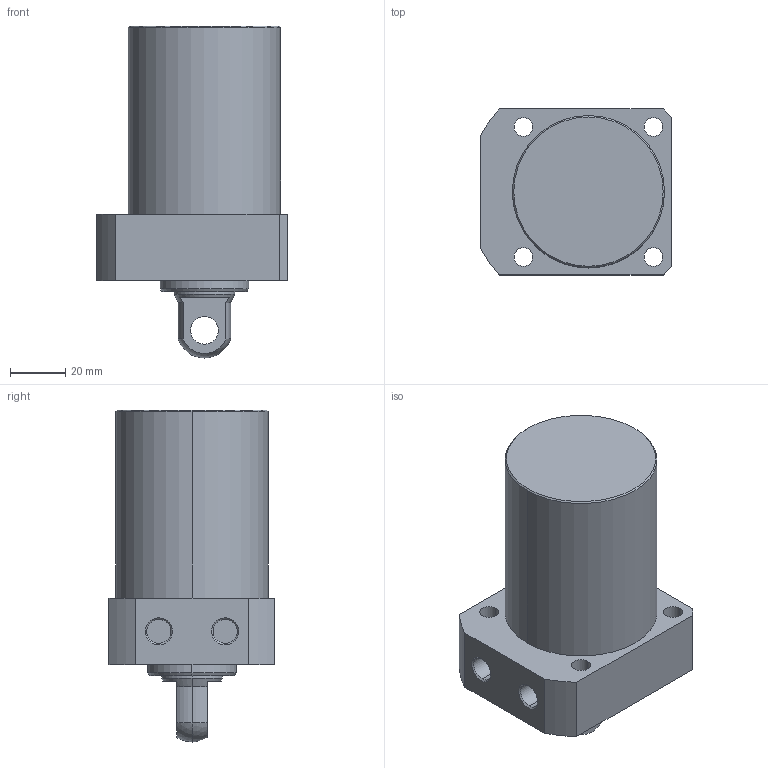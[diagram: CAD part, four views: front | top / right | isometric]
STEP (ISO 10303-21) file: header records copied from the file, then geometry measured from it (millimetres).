
FILE_DESCRIPTION (( 'STEP AP203' ), '1' );
FILE_NAME ('CLLR-055CP-055.STEP', '2019-12-19T08:28:36', ( '' ), ( '' ), 'SwSTEP 2.0', 'SolidWorks 2015', '' );
FILE_SCHEMA (( 'CONFIG_CONTROL_DESIGN' ));
Length unit declared in the file: millimetre
Products named in the file (1): CLLR-055CP-055
Bounding box: 69 x 60 x 120 mm (x, y, z)
Volume: 260805.7 mm3; surface area: 30027.5 mm2
Topology: 1 solids, 1 shells, 59 faces, 139 edges, 89 vertices
Faces by surface type: cylinder 29, plane 18, cone 10, sphere 2
Entity records: 1820 total; most frequent: DIRECTION 329, CARTESIAN_POINT 300, ORIENTED_EDGE 278, EDGE_CURVE 139, AXIS2_PLACEMENT_3D 134, VERTEX_POINT 89, EDGE_LOOP 76, CIRCLE 74
